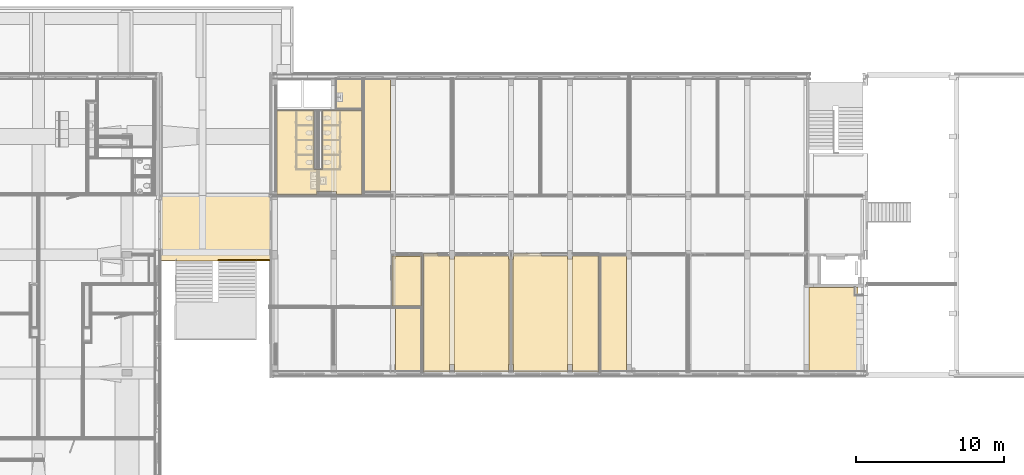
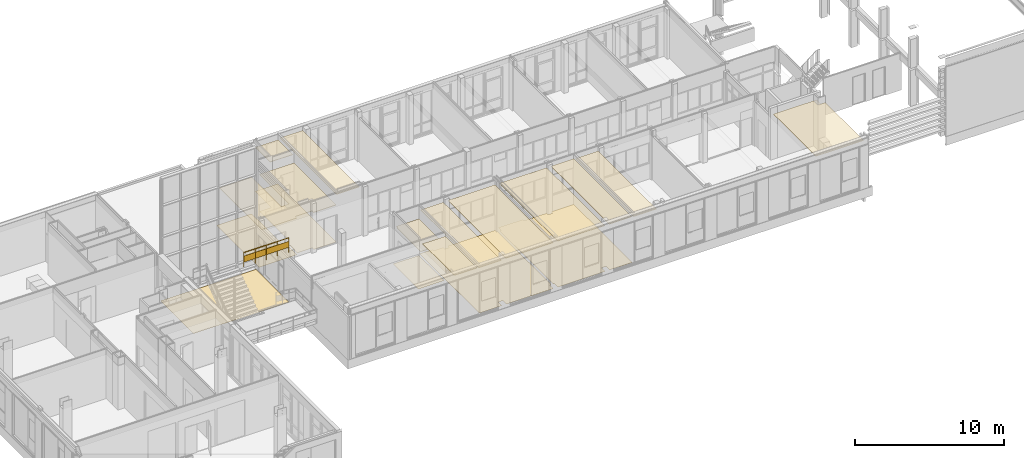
# One storey, part 82 of 94: 17 coverings, 1 railing.
"""IFC2X3 building model written with IfcOpenShell, lengths in millimetres."""

import ifcopenshell
import ifcopenshell.guid

model = None  # the IFC model being written
_history = None  # IfcOwnerHistory: only IFC2X3 demands one
_inside = {}  # id of a spatial element -> (the spatial element, [elements in it])
_under = {}  # id of a project, library or spatial element -> (it, [spatial elements below it])
_declared = {}  # id of a project -> (the project, [libraries it declares])
_typed = {}  # id of a type object -> (the type object, [elements of that type])
_made_of = {}  # id of a material, layer set ... -> (it, [elements and type objects made of it])


def new_model(schema):
    """Start an empty IFC model of exactly this schema.

    Asked for "IFC4X3", IfcOpenShell would pick the latest addendum, in which some entities
    have other attributes; the version numbers below select the first issue.
    IFC2X3 requires an IfcOwnerHistory on every rooted entity: one is made here for all.
    """
    global model, _history
    if schema == "IFC4X3":
        model = ifcopenshell.file(schema_version=(4, 3, 0, 0))
    else:
        model = ifcopenshell.file(schema=schema)
    _inside.clear()
    _under.clear()
    _declared.clear()
    _typed.clear()
    _made_of.clear()
    _history = None
    if model.schema == "IFC2X3":
        org = make("IfcOrganization", Name="unknown")
        user = make(
            "IfcPersonAndOrganization",
            ThePerson=make("IfcPerson", FamilyName="unknown"),
            TheOrganization=org,
        )
        app = make(
            "IfcApplication",
            ApplicationDeveloper=org,
            Version="unknown",
            ApplicationFullName="unknown",
            ApplicationIdentifier="unknown",
        )
        _history = make(
            "IfcOwnerHistory",
            OwningUser=user,
            OwningApplication=app,
            ChangeAction="ADDED",
            CreationDate=0,
        )
    return model


def make(cls, **values):
    """One entity of the class cls with the attributes given. An attribute that is None is left unset."""
    return model.create_entity(
        cls, **{name: value for name, value in values.items() if value is not None}
    )


def entity(cls, *values):
    """Any entity or typed value of the class cls, its attributes in the order of the schema. None: left unset."""
    e = model.create_entity(cls)
    for i, value in enumerate(values):
        if value is not None:
            e[i] = value
    return e


def rooted(cls, **values):
    """An entity with a GlobalId (a new one), such as an element, a storey or a relation."""
    return make(cls, GlobalId=ifcopenshell.guid.new(), OwnerHistory=_history, **values)


def si_unit(unit_type, name, prefix=None):
    """IfcSIUnit, for example si_unit("LENGTHUNIT", "METRE", prefix="MILLI")."""
    return make("IfcSIUnit", UnitType=unit_type, Prefix=prefix, Name=name)


def converted_unit(unit_type, name, factor, base, dimensions=None, offset=None):
    """IfcConversionBasedUnit, such as the inch: factor (a typed value) times the base unit."""
    return make(
        "IfcConversionBasedUnit"
        if offset is None
        else "IfcConversionBasedUnitWithOffset",
        ConversionOffset=offset,
        Dimensions=None
        if dimensions is None
        else entity("IfcDimensionalExponents", *dimensions),
        UnitType=unit_type,
        Name=name,
        ConversionFactor=make(
            "IfcMeasureWithUnit", ValueComponent=factor, UnitComponent=base
        ),
    )


def derived_unit(unit_type, elements):
    """IfcDerivedUnit: a product of units, each with its exponent."""
    return make(
        "IfcDerivedUnit",
        Elements=[
            make("IfcDerivedUnitElement", Unit=unit, Exponent=power)
            for unit, power in elements
        ],
        UnitType=unit_type,
    )


def money_unit(currency):
    """IfcMonetaryUnit."""
    return make("IfcMonetaryUnit", Currency=currency)


def assignment(units):
    """IfcUnitAssignment: the units of a project."""
    return None if units is None else make("IfcUnitAssignment", Units=units)


def point(xyz):
    """IfcCartesianPoint."""
    return None if xyz is None else make("IfcCartesianPoint", Coordinates=xyz)


def direction(xyz):
    """IfcDirection."""
    return None if xyz is None else make("IfcDirection", DirectionRatios=xyz)


def frame(location, z_axis=None, x_axis=None):
    """IfcAxis2Placement3D, a coordinate frame: its origin and axes. An axis left out is left unset."""
    return make(
        "IfcAxis2Placement3D",
        Location=point(location),
        Axis=direction(z_axis),
        RefDirection=direction(x_axis),
    )


def origin_with_axes():
    """The frame at (0, 0, 0) with the z axis (0, 0, 1) and the x axis (1, 0, 0) written out."""
    return frame((0.0, 0.0, 0.0), z_axis=(0.0, 0.0, 1.0), x_axis=(1.0, 0.0, 0.0))


def place(relative_to, where):
    """IfcLocalPlacement: puts the frame where relative to a parent placement (None: the world)."""
    return make(
        "IfcLocalPlacement", PlacementRelTo=relative_to, RelativePlacement=where
    )


def context(
    kind, dimensions, precision=None, world=None, true_north=None, identifier=None
):
    """IfcGeometricRepresentationContext, for example the 3D "Model" context."""
    return make(
        "IfcGeometricRepresentationContext",
        ContextIdentifier=identifier,
        ContextType=kind,
        CoordinateSpaceDimension=dimensions,
        Precision=precision,
        WorldCoordinateSystem=world,
        TrueNorth=true_north,
    )


def subcontext(parent, identifier, kind, view, scale=None):
    """IfcGeometricRepresentationSubContext, for example "Body" below "Model"."""
    return make(
        "IfcGeometricRepresentationSubContext",
        ContextIdentifier=identifier,
        ContextType=kind,
        ParentContext=parent,
        TargetScale=scale,
        TargetView=view,
    )


def project(units=None, contexts=None):
    """IfcProject with its units and contexts."""
    return rooted(
        "IfcProject",
        Name="project",
        RepresentationContexts=contexts,
        UnitsInContext=assignment(units),
    )


def spatial(cls, under=None, at=None, **own):
    """A site, building, storey or space (cls), placed at a placement, below another one or the project."""
    s = rooted(cls, ObjectPlacement=at, **own)
    if under is not None:
        _under.setdefault(under.id(), (under, []))[1].append(s)
    return s


def faces_of(points, faces, orient=None, outer=None):
    """IfcFace entities. A face is a list of loops; a loop is a list of indices into points, from 0.

    orient and outer hold one flag for each loop. By default every Orientation is true, the
    first loop of a face is its IfcFaceOuterBound and the others are IfcFaceBound.
    """
    made = []
    for i, loops in enumerate(faces):
        bounds = []
        for j, loop in enumerate(loops):
            is_outer = j == 0 if outer is None else outer[i][j]
            bounds.append(
                make(
                    "IfcFaceOuterBound" if is_outer else "IfcFaceBound",
                    Bound=make("IfcPolyLoop", Polygon=[points[k] for k in loop]),
                    Orientation=True if orient is None else orient[i][j],
                )
            )
        made.append(make("IfcFace", Bounds=bounds))
    return made


def faceted_brep(points, faces, orient=None, outer=None, voids=None):
    """IfcFacetedBrep: a solid bounded by flat faces; with voids (closed shells), ...WithVoids."""
    shared = [point(p) for p in points]
    hull = make("IfcClosedShell", CfsFaces=faces_of(shared, faces, orient, outer))
    if voids is None:
        return make("IfcFacetedBrep", Outer=hull)
    return make(
        "IfcFacetedBrepWithVoids",
        Outer=hull,
        Voids=[
            make(cls, CfsFaces=faces_of(shared, fs, o, b)) for cls, fs, o, b in voids
        ],
    )


def shape(context_of_items, identifier, shape_type, items):
    """IfcShapeRepresentation: the items that make up one representation, for example the "Body"."""
    return make(
        "IfcShapeRepresentation",
        ContextOfItems=context_of_items,
        RepresentationIdentifier=identifier,
        RepresentationType=shape_type,
        Items=items,
    )


def material(Name=None, Category=None):
    """IfcMaterial."""
    return make("IfcMaterial", Name=Name, Category=Category)


def material_list(materials):
    """IfcMaterialList."""
    return make("IfcMaterialList", Materials=materials)


def made_of(thing, what):
    """Note that an element or type object is made of a material, layer set ...; save() writes the relation."""
    if what is not None:
        _made_of.setdefault(what.id(), (what, []))[1].append(thing)
    return thing


def type_object(cls, material=None, **own):
    """A type object (cls), such as IfcWallType, which elements share."""
    return made_of(rooted(cls, **own), material)


def element(
    cls,
    number,
    at=None,
    inside=None,
    cuts=None,
    type_object=None,
    material=None,
    context=None,
    identifier="Body",
    shape_type=None,
    held_by="IfcProductDefinitionShape",
    body=None,
    shapes=None,
    **own,
):
    """One element of the class cls, such as IfcWall. Its Tag is "e" and its number.

    at: its placement. inside: the storey or other place that contains it. cuts: it is an
    opening in that element (IfcRelVoidsElement). A single representation is given by context,
    identifier, shape_type and body (its items); several are given by shapes. held_by: the class
    of the entity that holds the representations. save() writes the other relations.
    """
    e = rooted(cls, Tag="e%d" % number, ObjectPlacement=at, **own)
    if body is not None:
        shapes = [shape(context, identifier, shape_type, body)]
    if shapes is not None:
        e.Representation = make(held_by, Representations=shapes)
    if inside is not None:
        _inside.setdefault(inside.id(), (inside, []))[1].append(e)
    if cuts is not None:
        rooted(
            "IfcRelVoidsElement", RelatingBuildingElement=cuts, RelatedOpeningElement=e
        )
    if type_object is not None:
        _typed.setdefault(type_object.id(), (type_object, []))[1].append(e)
    return made_of(e, material)


def aggregate(whole, parts):
    """IfcRelAggregates: a whole, such as a stair, and the parts it consists of."""
    return rooted("IfcRelAggregates", RelatingObject=whole, RelatedObjects=parts)


def save(model, path):
    """Write the relations noted so far, then the file.

    IfcRelAggregates (storeys below a building ...), IfcRelContainedInSpatialStructure (elements
    in a storey), IfcRelDefinesByType, IfcRelAssociatesMaterial and IfcRelDeclares: one each for
    every whole, place, type object, material and project.
    """
    for whole, parts in _under.values():
        aggregate(whole, parts)
    for where, things in _inside.values():
        rooted(
            "IfcRelContainedInSpatialStructure",
            RelatedElements=things,
            RelatingStructure=where,
        )
    for kind, things in _typed.values():
        rooted("IfcRelDefinesByType", RelatedObjects=things, RelatingType=kind)
    for what, things in _made_of.values():
        rooted("IfcRelAssociatesMaterial", RelatedObjects=things, RelatingMaterial=what)
    for by, libraries in _declared.values():
        rooted("IfcRelDeclares", RelatingContext=by, RelatedDefinitions=libraries)
    model.write(path)


model = new_model("IFC2X3")

# Units and contexts
model_context = context("Model", 3, precision=0.01, world=origin_with_axes(), true_north=direction((0.0, 1.0)))
body_context = subcontext(model_context, "Body", "Model", "MODEL_VIEW")
ifc_project = project(units=[si_unit("LENGTHUNIT", "METRE", prefix="MILLI"), si_unit("AREAUNIT", "SQUARE_METRE"), si_unit("VOLUMEUNIT", "CUBIC_METRE"), converted_unit("PLANEANGLEUNIT", "DEGREE", entity("IfcPlaneAngleMeasure", 0.0174532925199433), si_unit("PLANEANGLEUNIT", "RADIAN"), dimensions=[0, 0, 0, 0, 0, 0, 0]), money_unit("EUR"), converted_unit("TIMEUNIT", "Year", entity("IfcTimeMeasure", 31557600.0), si_unit("TIMEUNIT", "SECOND"), dimensions=[0, 0, 1, 0, 0, 0, 0]), si_unit("MASSUNIT", "GRAM", prefix="KILO"), si_unit("THERMODYNAMICTEMPERATUREUNIT", "DEGREE_CELSIUS"), si_unit("LUMINOUSINTENSITYUNIT", "LUMEN"), si_unit("ENERGYUNIT", "JOULE", prefix="MEGA"), derived_unit("THERMALCONDUCTANCEUNIT", [(si_unit("POWERUNIT", "WATT"), 1), (si_unit("LENGTHUNIT", "METRE"), -1), (si_unit("THERMODYNAMICTEMPERATUREUNIT", "KELVIN"), -1)]), derived_unit("SPECIFICHEATCAPACITYUNIT", [(si_unit("ENERGYUNIT", "JOULE"), 1), (si_unit("MASSUNIT", "GRAM", prefix="KILO"), -1), (si_unit("THERMODYNAMICTEMPERATUREUNIT", "KELVIN"), -1)]), derived_unit("MASSDENSITYUNIT", [(si_unit("MASSUNIT", "GRAM", prefix="KILO"), 1), (si_unit("VOLUMEUNIT", "CUBIC_METRE"), -1)])], contexts=[model_context])

# Site, building, storey
site_placement = place(None, origin_with_axes())
site = spatial("IfcSite", under=ifc_project, at=site_placement, Name="<site naam>", CompositionType="ELEMENT")
building_placement = place(site_placement, origin_with_axes())
building = spatial("IfcBuilding", under=site, at=building_placement, Name="<Naam gebouw>", CompositionType="ELEMENT")
storey_placement = place(building_placement, frame((0.0, 0.0, 4250.0), z_axis=(0.0, 0.0, 1.0), x_axis=(1.0, 0.0, 0.0)))
storey = spatial("IfcBuildingStorey", under=building, at=storey_placement, Name="01 1e verdieping", CompositionType="ELEMENT", Elevation=4250.0)

# Coverings
ifc_material_1 = material(Name="Gietvloer type 02a")
covering_type_1 = type_object("IfcCoveringType", Name="VA-02a 3", PredefinedType="CEILING")
covering_1_placement = place(storey_placement, frame((14649.999959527, 17750.00000308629, 19.99999999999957), z_axis=(0.0, 0.0, 1.0), x_axis=(1.0, 0.0, 0.0)))
element("IfcCovering", 1, at=covering_1_placement, inside=storey, type_object=covering_type_1, material=ifc_material_1, Name="43_Vloer_VA-02a", PredefinedType="CEILING", context=body_context, shape_type="Brep", body=[
    faceted_brep([(0.0, 0.0, 3.000000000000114), (0.0, 0.0, 0.0), (-2715.000001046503, 0.0, 0.0), (-2715.000001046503, 0.0, 3.000000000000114), (0.0, -4000.143493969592, 3.000000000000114), (0.0, -4000.143493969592, 0.0), (225.0000404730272, -4000.143493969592, 0.0), (225.0000404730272, -5675.000003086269, 0.0), (-2715.000001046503, -5675.000003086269, 0.0), (-2715.000001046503, -5675.000003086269, 3.000000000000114), (225.0000404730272, -5675.000003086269, 3.000000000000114), (225.0000404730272, -4000.143493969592, 3.000000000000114)], [[[0, 1, 2, 3]], [[4, 5, 1, 0]], [[2, 1, 5, 6, 7, 8]], [[3, 2, 8, 9]], [[4, 0, 3, 9, 10, 11]], [[11, 6, 5, 4]], [[10, 7, 6, 11]], [[9, 8, 7, 10]]]),
])
covering_2_placement = place(storey_placement, frame((15250.00004285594, 13749.85647964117, 0.0), z_axis=(0.0, 0.0, 1.0), x_axis=(1.0, 0.0, 0.0)))
element("IfcCovering", 2, at=covering_2_placement, inside=storey, type_object=covering_type_1, material=ifc_material_1, Name="43_Vloer_VA-02a", PredefinedType="CEILING", context=body_context, shape_type="Brep", body=[
    faceted_brep([(0.0, 0.0, 3.000000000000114), (0.0, 0.0, 0.0), (-224.9999963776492, 0.0, 0.0), (-224.9999963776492, 0.0, 3.000000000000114), (0.0, 4000.143548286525, 3.000000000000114), (0.0, 4000.143548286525, 0.0), (924.9998929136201, 4000.143548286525, 0.0), (924.9998929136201, 6175.143434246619, 0.0), (2674.938291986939, 6175.143434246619, 0.0), (2674.938291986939, -1674.856531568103, 0.0), (925.0000114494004, -1674.856531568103, 0.0), (925.0000114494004, -1474.856442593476, 0.0), (-224.9999963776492, -1474.856442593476, 0.0), (-224.9999963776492, -1474.856442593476, 3.000000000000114), (925.0000114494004, -1474.856442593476, 3.000000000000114), (925.0000114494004, -1674.856531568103, 3.000000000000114), (2674.938291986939, -1674.856531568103, 3.000000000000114), (2674.938291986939, 6175.143434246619, 3.000000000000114), (924.9998929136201, 6175.143434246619, 3.000000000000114), (924.9998929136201, 4000.143548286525, 3.000000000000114)], [[[0, 1, 2, 3]], [[4, 5, 1, 0]], [[2, 1, 5, 6, 7, 8, 9, 10, 11, 12]], [[3, 2, 12, 13]], [[4, 0, 3, 13, 14, 15, 16, 17, 18, 19]], [[19, 6, 5, 4]], [[18, 7, 6, 19]], [[17, 8, 7, 18]], [[16, 9, 8, 17]], [[15, 10, 9, 16]], [[14, 11, 10, 15]], [[13, 12, 11, 14]]]),
])
ifc_material_2 = material(Name="systeemplafond 600*600 kleur wit")
covering_type_2 = type_object("IfcCoveringType", Name="PA-01a 40", PredefinedType="CEILING")
covering_3_placement = place(storey_placement, frame((18075.05830738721, 19889.39872897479, 3700.0), z_axis=(0.0, 0.0, 1.0), x_axis=(1.0, 0.0, 0.0)))
element("IfcCovering", 3, at=covering_3_placement, inside=storey, type_object=covering_type_2, material=ifc_material_2, Name="45_Vloer_PA-01a", PredefinedType="CEILING", context=body_context, shape_type="Brep", body=[
    faceted_brep([(0.0, 0.0, 40.00000000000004), (0.0, 0.0, 0.0), (0.0, -7608.999986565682, 0.0), (0.0, -7608.999986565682, 40.00000000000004), (1749.941647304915, 0.0, 40.00000000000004), (1749.941647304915, 0.0, 0.0), (1749.941533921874, -7608.999986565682, 0.0), (1749.941533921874, -7608.999986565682, 40.00000000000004)], [[[0, 1, 2, 3]], [[4, 5, 1, 0]], [[2, 1, 5, 6]], [[3, 2, 6, 7]], [[4, 0, 3, 7]], [[7, 6, 5, 4]]]),
])
covering_4_placement = place(storey_placement, frame((12149.99991724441, 12076.82023352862, 3000.0), z_axis=(0.0, 0.0, 1.0), x_axis=(1.0, 0.0, 0.0)))
element("IfcCovering", 4, at=covering_4_placement, inside=storey, type_object=covering_type_2, material=ifc_material_2, Name="45_Vloer_PA-01a", PredefinedType="CEILING", context=body_context, shape_type="Brep", body=[
    faceted_brep([(0.0, 0.0, 40.00000000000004), (0.0, 0.0, 0.0), (2725.000060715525, 0.0, 0.0), (2725.000060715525, 0.0, 40.00000000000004), (0.0, 5678.578504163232, 40.00000000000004), (0.0, 5678.578504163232, 0.0), (2500.000028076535, 5678.578504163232, 0.0), (2500.000028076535, 1678.577168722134, 0.0), (3100.000000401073, 1678.577168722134, 0.0), (3100.000000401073, 5678.578504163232, 0.0), (5773.677167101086, 5678.578504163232, 0.0), (5773.677167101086, 0.0, 0.0), (4025.000058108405, 0.0, 0.0), (4025.000058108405, 198.1797859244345, 0.0), (2725.000060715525, 198.1797859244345, 0.0), (2725.000060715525, 198.1797859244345, 40.00000000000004), (4025.000058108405, 198.1797859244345, 40.00000000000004), (4025.000058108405, 0.0, 40.00000000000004), (5773.677167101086, 0.0, 40.00000000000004), (5773.677167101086, 5678.578504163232, 40.00000000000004), (3100.000000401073, 5678.578504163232, 40.00000000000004), (3100.000000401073, 1678.577168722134, 40.00000000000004), (2500.000028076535, 1678.577168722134, 40.00000000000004), (2500.000028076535, 5678.578504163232, 40.00000000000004)], [[[0, 1, 2, 3]], [[4, 5, 1, 0]], [[2, 1, 5, 6, 7, 8, 9, 10, 11, 12, 13, 14]], [[3, 2, 14, 15]], [[4, 0, 3, 15, 16, 17, 18, 19, 20, 21, 22, 23]], [[23, 6, 5, 4]], [[22, 7, 6, 23]], [[21, 8, 7, 22]], [[20, 9, 8, 21]], [[19, 10, 9, 20]], [[18, 11, 10, 19]], [[17, 12, 11, 18]], [[16, 13, 12, 17]], [[15, 14, 13, 16]]]),
])
covering_5_placement = place(storey_placement, frame((23825.00006450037, 7926.689911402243, 3700.0), z_axis=(0.0, 0.0, 1.0), x_axis=(1.0, 0.0, 0.0)))
element("IfcCovering", 5, at=covering_5_placement, inside=storey, type_object=covering_type_2, material=ifc_material_2, Name="45_Vloer_PA-01a", PredefinedType="CEILING", context=body_context, shape_type="Brep", body=[
    faceted_brep([(-1749.988575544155, 0.0, 0.0), (0.0, 0.0, 0.0), (0.0, 0.0, -40.00000000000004), (-1749.988575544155, 0.0, -40.00000000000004), (-1749.988575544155, -7805.291182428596, 0.0), (0.0, -7805.291182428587, 0.0), (0.0, -7805.291182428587, -40.00000000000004), (-1749.988575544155, -7805.291182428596, -40.00000000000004)], [[[0, 1, 2, 3]], [[1, 0, 4, 5]], [[1, 5, 6, 2]], [[3, 2, 6, 7]], [[4, 0, 3, 7]], [[5, 4, 7, 6]]]),
])
covering_6_placement = place(storey_placement, frame((20175.00620360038, 550.0001138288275, 3700.0), z_axis=(0.0, 0.0, 1.0), x_axis=(1.0, 0.0, 0.0)))
element("IfcCovering", 6, at=covering_6_placement, inside=storey, type_object=covering_type_2, material=ifc_material_2, Name="45_Vloer_PA-01a", PredefinedType="CEILING", context=body_context, shape_type="Brep", body=[
    faceted_brep([(0.0, 3824.99985360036, 40.00000000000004), (0.0, -440.5001138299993, 40.00000000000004), (1750.000188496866, -440.5001138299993, 40.00000000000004), (1750.000188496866, 3824.99985360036, 40.00000000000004), (0.0, 3824.99985360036, 0.0), (0.0, -440.5001138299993, 0.0), (1750.000188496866, -440.5001138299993, 0.0), (1750.000188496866, 3824.99985360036, 0.0)], [[[0, 1, 2, 3]], [[4, 5, 1, 0]], [[5, 6, 2, 1]], [[3, 2, 6, 7]], [[0, 3, 7, 4]], [[7, 6, 5, 4]]]),
])
covering_7_placement = place(storey_placement, frame((34075.00016104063, 7926.689862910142, 3700.0), z_axis=(0.0, 0.0, 1.0), x_axis=(1.0, 0.0, 0.0)))
element("IfcCovering", 7, at=covering_7_placement, inside=storey, type_object=covering_type_2, material=ifc_material_2, Name="45_Vloer_PA-01a", PredefinedType="CEILING", context=body_context, shape_type="Brep", body=[
    faceted_brep([(0.0, -7805.291133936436, 0.0), (0.0, 0.0, 0.0), (0.0, 0.0, -40.00000000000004), (0.0, -7805.291133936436, -40.00000000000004), (1749.99971633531, 0.0, 0.0), (1749.99971633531, -7805.291133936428, 0.0), (1749.99971633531, 0.0, -40.00000000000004), (1749.99971633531, -7805.291133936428, -40.00000000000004)], [[[0, 1, 2, 3]], [[4, 1, 0, 5]], [[1, 4, 6, 2]], [[7, 3, 2, 6]], [[5, 0, 3, 7]], [[4, 5, 7, 6]]]),
])
covering_8_placement = place(storey_placement, frame((31824.99995019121, 7926.689911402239, 3700.0), z_axis=(0.0, 0.0, 1.0), x_axis=(1.0, 0.0, 0.0)))
element("IfcCovering", 8, at=covering_8_placement, inside=storey, type_object=covering_type_2, material=ifc_material_2, Name="45_Vloer_PA-01a", PredefinedType="CEILING", context=body_context, shape_type="Brep", body=[
    faceted_brep([(-3649.999943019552, 0.0, 40.00000000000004), (0.0, 0.0, 40.00000000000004), (0.0, 0.0, 0.0), (-3649.999943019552, 0.0, 0.0), (-3649.999943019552, -7805.291182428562, 40.00000000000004), (0.0, -7805.291182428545, 40.00000000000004), (0.0, -7805.291182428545, 0.0), (-3649.999943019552, -7805.291182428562, 0.0)], [[[0, 1, 2, 3]], [[1, 0, 4, 5]], [[1, 5, 6, 2]], [[3, 2, 6, 7]], [[4, 0, 3, 7]], [[5, 4, 7, 6]]]),
])
covering_9_placement = place(storey_placement, frame((48175.00001933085, 555.3987106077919, 3700.0), z_axis=(0.0, 0.0, 1.0), x_axis=(1.0, 0.0, 0.0)))
element("IfcCovering", 9, at=covering_9_placement, inside=storey, type_object=covering_type_2, material=ifc_material_2, Name="45_Vloer_PA-01a", PredefinedType="CEILING", context=body_context, shape_type="Brep", body=[
    faceted_brep([(3327.499980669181, 5235.601287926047, 0.0), (3327.499980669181, 5235.601287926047, -40.00000000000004), (0.0, 5235.601287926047, -40.00000000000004), (0.0, 5235.601287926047, 0.0), (3327.499980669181, 4678.500042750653, -40.00000000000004), (3327.499980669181, 4678.500042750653, 0.0), (0.0, -433.9999816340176, -40.00000000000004), (3689.999980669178, 4678.500042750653, -40.00000000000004), (3689.999980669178, -433.9999816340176, -40.00000000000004), (0.0, -433.9999816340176, 0.0), (3689.999980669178, -433.9999816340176, 0.0), (3689.999980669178, 4678.500042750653, 0.0)], [[[0, 1, 2, 3]], [[4, 1, 0, 5]], [[6, 2, 1, 4, 7, 8]], [[9, 3, 2, 6]], [[0, 3, 9, 10, 11, 5]], [[5, 11, 7, 4]], [[11, 10, 8, 7]], [[10, 9, 6, 8]]]),
])
covering_10_placement = place(storey_placement, frame((32174.99993803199, 7926.689911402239, 3700.0), z_axis=(0.0, 0.0, 1.0), x_axis=(1.0, 0.0, 0.0)))
element("IfcCovering", 10, at=covering_10_placement, inside=storey, type_object=covering_type_2, material=ifc_material_2, Name="45_Vloer_PA-01a", PredefinedType="CEILING", context=body_context, shape_type="Brep", body=[
    faceted_brep([(0.0001116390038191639, -7805.291182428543, 40.00000000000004), (0.0, 0.0, 40.00000000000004), (0.0, 0.0, 0.0), (0.0001116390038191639, -7805.291182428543, 0.0), (1750.000183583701, -7805.291182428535, 40.00000000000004), (1750.000183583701, 0.0, 40.00000000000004), (1750.000183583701, 0.0, 0.0), (1750.000183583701, -7805.291182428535, 0.0)], [[[0, 1, 2, 3]], [[4, 5, 1, 0]], [[1, 5, 6, 2]], [[2, 6, 7, 3]], [[4, 0, 3, 7]], [[5, 4, 7, 6]]]),
])
covering_11_placement = place(storey_placement, frame((20122.25653379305, 4525.000064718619, 3000.0), z_axis=(0.0, 0.0, 1.0), x_axis=(1.0, 0.0, 0.0)))
element("IfcCovering", 11, at=covering_11_placement, inside=storey, type_object=covering_type_2, material=ifc_material_2, Name="45_Vloer_PA-01a", PredefinedType="CEILING", context=body_context, shape_type="Brep", body=[
    faceted_brep([(1802.756227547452, 3365.00002647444, 0.0), (52.74346620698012, 3365.00002647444, 0.0), (52.74346620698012, 3365.00002647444, 40.00000000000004), (1802.756227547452, 3365.00002647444, 40.00000000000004), (0.0, 3199.999935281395, 0.0), (52.74346620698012, 3199.999935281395, 0.0), (1802.756227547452, 0.0, 0.0), (0.0, 0.0, 0.0), (52.74346620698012, 3199.999935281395, 40.00000000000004), (0.0, 3199.999935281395, 40.00000000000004), (0.0, 0.0, 40.00000000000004), (1802.756227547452, 0.0, 40.00000000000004)], [[[0, 1, 2, 3]], [[4, 5, 1, 0, 6, 7]], [[5, 8, 2, 1]], [[2, 8, 9, 10, 11, 3]], [[3, 11, 6, 0]], [[4, 9, 8, 5]], [[11, 10, 7, 6]], [[10, 9, 4, 7]]]),
])
covering_12_placement = place(storey_placement, frame((24175.00005234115, 7730.395628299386, 3700.0), z_axis=(0.0, 0.0, 1.0), x_axis=(1.0, 0.0, 0.0)))
element("IfcCovering", 12, at=covering_12_placement, inside=storey, type_object=covering_type_2, material=ifc_material_2, Name="45_Vloer_PA-01a", PredefinedType="CEILING", context=body_context, shape_type="Brep", body=[
    faceted_brep([(3649.999893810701, -7608.996899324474, 40.00000000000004), (0.0, -7608.996899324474, 40.00000000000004), (0.0, -7608.996899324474, 0.0), (3649.999893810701, -7608.996899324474, 0.0), (3649.999893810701, 196.2909730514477, 40.00000000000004), (0.0, 196.2909730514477, 40.00000000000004), (0.0, 196.2909730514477, 0.0), (3649.999893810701, 196.2909730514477, 0.0)], [[[0, 1, 2, 3]], [[4, 5, 1, 0]], [[1, 5, 6, 2]], [[2, 6, 7, 3]], [[4, 0, 3, 7]], [[5, 4, 7, 6]]]),
])
covering_13_placement = place(storey_placement, frame((17923.6770843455, 19889.39872897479, 3600.0), z_axis=(0.0, 0.0, 1.0), x_axis=(1.0, 0.0, 0.0)))
element("IfcCovering", 13, at=covering_13_placement, inside=storey, type_object=covering_type_2, material=ifc_material_2, Name="45_Vloer_PA-01a", PredefinedType="CEILING", context=body_context, shape_type="Brep", body=[
    faceted_brep([(0.0, 0.0, 40.00000000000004), (0.0, 0.0, 0.0), (-1748.677178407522, 0.0, 0.0), (-1748.677178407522, 0.0, 40.00000000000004), (0.0, -1983.999999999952, 40.00000000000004), (0.0, -1983.999999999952, 0.0), (-1748.677178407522, -1983.999999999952, 0.0), (-1748.677178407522, -1983.999999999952, 40.00000000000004)], [[[0, 1, 2, 3]], [[4, 5, 1, 0]], [[2, 1, 5, 6]], [[3, 2, 6, 7]], [[4, 0, 3, 7]], [[7, 6, 5, 4]]]),
])
ifc_material_3 = material(Name="tapijttegel")
covering_type_3 = type_object("IfcCoveringType", Name="VA-05 3", PredefinedType="CEILING")
covering_14_placement = place(storey_placement, frame((19925.00000000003, 4524.999967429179, 19.99999999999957), z_axis=(0.0, 0.0, 1.0), x_axis=(1.0, 0.0, 0.0)))
element("IfcCovering", 14, at=covering_14_placement, inside=storey, type_object=covering_type_3, material=ifc_material_3, Name="43_Vloer_VA-05", PredefinedType="CEILING", context=body_context, shape_type="Brep", body=[
    faceted_brep([(0.0, 0.0, 3.000000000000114), (0.0, 0.0, 0.0), (2000.006723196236, 0.0, 0.0), (2000.006723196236, 0.0, 3.000000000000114), (0.0, 3395.99765722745, 3.000000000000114), (0.0, 3395.99765722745, 0.0), (2000.006723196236, 3395.99765722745, 0.0), (2000.006723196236, 3395.99765722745, 3.000000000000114)], [[[0, 1, 2, 3]], [[4, 5, 1, 0]], [[2, 1, 5, 6]], [[3, 2, 6, 7]], [[4, 0, 3, 7]], [[7, 6, 5, 4]]]),
])

# Railing
ifc_material_4 = material(Name="staal balustrade")
ifc_material_5 = material(Name="hout AFW")
ifc_material_list = material_list([ifc_material_4, ifc_material_4, ifc_material_4, ifc_material_4, ifc_material_4, ifc_material_5, ifc_material_4, ifc_material_5, ifc_material_4, ifc_material_5, ifc_material_4, ifc_material_5])
railing_type = type_object("IfcRailingType", Name="Railing Type", PredefinedType="NOTDEFINED")
railing_placement = place(storey_placement, frame((9441.293343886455, 7680.000000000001, 4250.000000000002), z_axis=(0.0, 0.0, 1.0), x_axis=(1.0, 0.0, 0.0)))
element("IfcRailing", 15, at=railing_placement, inside=storey, type_object=railing_type, material=ifc_material_list, Name="34_Reling_", PredefinedType="NOTDEFINED", context=body_context, shape_type="Brep", body=[
    faceted_brep([(-1231.292743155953, -24.99999999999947, -199.9999999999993), (-1231.292743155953, -24.99999999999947, 980.0000000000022), (-1231.292743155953, -75.00000000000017, 980.0000000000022), (-1231.292743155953, -75.00000000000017, -199.9999999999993), (-1251.292743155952, -24.99999999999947, -199.9999999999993), (-1251.292743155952, -24.99999999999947, 980.0000000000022), (-1251.292743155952, -75.00000000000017, 980.0000000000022), (-1251.292743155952, -75.00000000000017, -199.9999999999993)], [[[0, 1, 2, 3]], [[4, 5, 1, 0]], [[1, 5, 6, 2]], [[3, 2, 6, 7]], [[0, 3, 7, 4]], [[7, 6, 5, 4]]]),
    faceted_brep([(-1241.292743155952, -24.99999999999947, 1000.0), (-1241.292743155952, -24.99999999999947, 970.0000000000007), (-1251.292743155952, -24.99999999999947, 970.0000000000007), (-1251.292743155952, -24.99999999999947, 1000.0), (-1241.292743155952, -75.00000000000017, 1000.0), (-1241.292743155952, -75.00000000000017, 970.0000000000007), (-1251.292743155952, -75.00000000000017, 970.0000000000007), (-1251.292743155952, -75.00000000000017, 1000.0)], [[[0, 1, 2, 3]], [[0, 4, 5, 1]], [[1, 5, 6, 2]], [[3, 2, 6, 7]], [[4, 0, 3, 7]], [[5, 4, 7, 6]]]),
    faceted_brep([(2233.706656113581, -24.99999999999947, -199.9999999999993), (2233.706656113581, -24.99999999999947, 980.0000000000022), (2233.706656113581, -75.00000000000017, 980.0000000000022), (2233.706656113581, -75.00000000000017, -199.9999999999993), (2213.706656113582, -24.99999999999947, -199.9999999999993), (2213.706656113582, -24.99999999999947, 980.0000000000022), (2213.706656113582, -75.00000000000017, 980.0000000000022), (2213.706656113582, -75.00000000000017, -199.9999999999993)], [[[0, 1, 2, 3]], [[4, 5, 1, 0]], [[1, 5, 6, 2]], [[3, 2, 6, 7]], [[0, 3, 7, 4]], [[7, 6, 5, 4]]]),
    faceted_brep([(2223.706656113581, -75.00000000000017, 1000.0), (2223.706656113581, -75.00000000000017, 970.0000000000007), (2233.706656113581, -75.00000000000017, 970.0000000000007), (2233.706656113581, -75.00000000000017, 1000.0), (2223.706656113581, -24.99999999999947, 1000.0), (2223.706656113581, -24.99999999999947, 970.0000000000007), (2233.706656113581, -24.99999999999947, 970.0000000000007), (2233.706656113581, -24.99999999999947, 1000.0)], [[[0, 1, 2, 3]], [[0, 4, 5, 1]], [[1, 5, 6, 2]], [[3, 2, 6, 7]], [[4, 0, 3, 7]], [[5, 4, 7, 6]]]),
    faceted_brep([(-1241.292743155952, -75.00000000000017, 1000.0), (-1241.292743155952, -75.00000000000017, 970.0000000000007), (2223.706656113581, -75.00000000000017, 970.0000000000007), (2223.706656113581, -75.00000000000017, 1000.0), (-1241.292743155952, -24.99999999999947, 1000.0), (-1241.292743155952, -24.99999999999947, 970.0000000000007), (2223.706656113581, -24.99999999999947, 970.0000000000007), (2223.706656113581, -24.99999999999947, 1000.0)], [[[0, 1, 2, 3]], [[0, 4, 5, 1]], [[1, 5, 6, 2]], [[3, 2, 6, 7]], [[4, 0, 3, 7]], [[5, 4, 7, 6]]]),
    faceted_brep([(-385.0428933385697, -59.99999999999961, 200.0000000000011), (-385.0428933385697, -59.99999999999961, 699.9999999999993), (-1231.292743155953, -59.99999999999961, 699.9999999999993), (-1231.292743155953, -59.99999999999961, 200.0000000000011), (-385.0428933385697, -40.00000000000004, 200.0000000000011), (-385.0428933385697, -40.00000000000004, 699.9999999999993), (-1231.292743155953, -40.00000000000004, 699.9999999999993), (-1231.292743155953, -40.00000000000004, 200.0000000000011)], [[[0, 1, 2, 3]], [[0, 4, 5, 1]], [[1, 5, 6, 2]], [[6, 7, 3, 2]], [[7, 4, 0, 3]], [[6, 5, 4, 7]]]),
    faceted_brep([(-370.0428933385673, -24.99999999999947, -199.9999999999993), (-370.0428933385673, -24.99999999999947, 1000.000000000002), (-370.0428933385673, -75.00000000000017, 1000.000000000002), (-370.0428933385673, -75.00000000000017, -199.9999999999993), (-380.0428933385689, -24.99999999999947, -199.9999999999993), (-380.0428933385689, -24.99999999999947, 1000.000000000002), (-380.0428933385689, -75.00000000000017, 1000.000000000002), (-380.0428933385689, -75.00000000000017, -199.9999999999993)], [[[0, 1, 2, 3]], [[4, 5, 1, 0]], [[1, 5, 6, 2]], [[3, 2, 6, 7]], [[0, 3, 7, 4]], [[7, 6, 5, 4]]]),
    faceted_brep([(481.2069564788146, -59.99999999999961, 200.0000000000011), (481.2069564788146, -59.99999999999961, 699.9999999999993), (-365.0428933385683, -59.99999999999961, 699.9999999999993), (-365.0428933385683, -59.99999999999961, 200.0000000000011), (481.2069564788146, -40.00000000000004, 200.0000000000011), (481.2069564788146, -40.00000000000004, 699.9999999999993), (-365.0428933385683, -40.00000000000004, 699.9999999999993), (-365.0428933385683, -40.00000000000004, 200.0000000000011)], [[[0, 1, 2, 3]], [[0, 4, 5, 1]], [[1, 5, 6, 2]], [[6, 7, 3, 2]], [[7, 4, 0, 3]], [[6, 5, 4, 7]]]),
    faceted_brep([(496.2069564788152, -24.99999999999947, -199.9999999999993), (496.2069564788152, -24.99999999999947, 1000.000000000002), (496.2069564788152, -75.00000000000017, 1000.000000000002), (496.2069564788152, -75.00000000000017, -199.9999999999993), (486.2069564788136, -24.99999999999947, -199.9999999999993), (486.2069564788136, -24.99999999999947, 1000.000000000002), (486.2069564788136, -75.00000000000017, 1000.000000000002), (486.2069564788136, -75.00000000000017, -199.9999999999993)], [[[0, 1, 2, 3]], [[4, 5, 1, 0]], [[1, 5, 6, 2]], [[3, 2, 6, 7]], [[0, 3, 7, 4]], [[7, 6, 5, 4]]]),
    faceted_brep([(1347.456806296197, -59.99999999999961, 200.0000000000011), (1347.456806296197, -59.99999999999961, 699.9999999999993), (501.2069564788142, -59.99999999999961, 699.9999999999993), (501.2069564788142, -59.99999999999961, 200.0000000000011), (1347.456806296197, -40.00000000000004, 200.0000000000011), (1347.456806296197, -40.00000000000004, 699.9999999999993), (501.2069564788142, -40.00000000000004, 699.9999999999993), (501.2069564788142, -40.00000000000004, 200.0000000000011)], [[[0, 1, 2, 3]], [[0, 4, 5, 1]], [[1, 5, 6, 2]], [[6, 7, 3, 2]], [[7, 4, 0, 3]], [[6, 5, 4, 7]]]),
    faceted_brep([(1362.456806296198, -24.99999999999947, -199.9999999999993), (1362.456806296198, -24.99999999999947, 1000.000000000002), (1362.456806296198, -75.00000000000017, 1000.000000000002), (1362.456806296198, -75.00000000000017, -199.9999999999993), (1352.456806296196, -24.99999999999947, -199.9999999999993), (1352.456806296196, -24.99999999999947, 1000.000000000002), (1352.456806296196, -75.00000000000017, 1000.000000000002), (1352.456806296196, -75.00000000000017, -199.9999999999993)], [[[0, 1, 2, 3]], [[4, 5, 1, 0]], [[1, 5, 6, 2]], [[3, 2, 6, 7]], [[0, 3, 7, 4]], [[7, 6, 5, 4]]]),
    faceted_brep([(2213.706656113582, -59.99999999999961, 200.0000000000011), (2213.706656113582, -59.99999999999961, 699.9999999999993), (1367.456806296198, -59.99999999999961, 699.9999999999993), (1367.456806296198, -59.99999999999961, 200.0000000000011), (2213.706656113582, -40.00000000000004, 200.0000000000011), (2213.706656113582, -40.00000000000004, 699.9999999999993), (1367.456806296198, -40.00000000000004, 699.9999999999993), (1367.456806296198, -40.00000000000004, 200.0000000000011)], [[[0, 1, 2, 3]], [[0, 4, 5, 1]], [[1, 5, 6, 2]], [[6, 7, 3, 2]], [[7, 4, 0, 3]], [[6, 5, 4, 7]]]),
])

# Coverings
ifc_material_6 = material(Name="Behoud natuursteen tegels")
covering_type_4 = type_object("IfcCoveringType", Name="VA-06 3", PredefinedType="CEILING")
covering_15_placement = place(storey_placement, frame((8049.999996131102, 11999.9999640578, 0.0), z_axis=(0.0, 0.0, 1.0), x_axis=(1.0, 0.0, 0.0)))
element("IfcCovering", 16, at=covering_15_placement, inside=storey, type_object=covering_type_4, material=ifc_material_6, Name="43_Vloer_VA-06", PredefinedType="CEILING", context=body_context, shape_type="Brep", body=[
    faceted_brep([(-3779.955527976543, 0.0, 3.000000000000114), (-3779.955527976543, -61.02121164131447, 3.000000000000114), (-3737.999839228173, -61.02121164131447, 3.000000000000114), (-3737.999839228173, 0.0, 3.000000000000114), (-3779.955527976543, 0.0, 0.0), (-3779.955527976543, -61.02121164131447, 0.0), (-3737.999839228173, -61.02121164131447, 0.0), (-3737.999839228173, 0.0, 0.0)], [[[0, 1, 2, 3]], [[4, 5, 1, 0]], [[6, 2, 1, 5]], [[6, 7, 3, 2]], [[0, 3, 7, 4]], [[7, 6, 5, 4]]]),
    faceted_brep([(3615.000217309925, 0.0, 0.0), (-3729.999839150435, 0.0, 0.0), (-3729.999839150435, 0.0, 3.000000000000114), (3615.000217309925, 0.0, 3.000000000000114), (-3779.955527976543, -69.02121171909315, 0.0), (-3729.999839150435, -69.02121171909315, 0.0), (3614.99999692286, -4428.465073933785, 0.0), (-3779.955527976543, -4428.465073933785, 0.0), (-3729.999839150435, -69.02121171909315, 3.000000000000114), (-3779.955527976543, -69.02121171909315, 3.000000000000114), (-3779.955527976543, -4428.465073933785, 3.000000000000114), (3614.99999692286, -4428.465073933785, 3.000000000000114)], [[[0, 1, 2, 3]], [[4, 5, 1, 0, 6, 7]], [[5, 8, 2, 1]], [[2, 8, 9, 10, 11, 3]], [[3, 11, 6, 0]], [[4, 9, 8, 5]], [[11, 10, 7, 6]], [[10, 9, 4, 7]]]),
])
ifc_material_7 = material(Name="Vinyl type 01a")
covering_type_5 = type_object("IfcCoveringType", Name="VA-01a 3", PredefinedType="CEILING")
covering_16_placement = place(storey_placement, frame((22075.01149171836, 7921.02079944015, 0.0), z_axis=(0.0, 0.0, 1.0), x_axis=(1.0, 0.0, 0.0)))
element("IfcCovering", 17, at=covering_16_placement, inside=storey, type_object=covering_type_5, material=ifc_material_7, Name="43_Vloer_VA-01a", PredefinedType="CEILING", context=body_context, shape_type="Brep", body=[
    faceted_brep([(-0.0112540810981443, -7846.037690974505, 3.000000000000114), (-0.0112540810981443, -7846.037690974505, 0.0), (1749.988524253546, -7846.037690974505, 0.0), (1749.988524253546, -7846.037690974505, 3.000000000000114), (0.0, 163.9792005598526, 3.000000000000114), (0.0, 163.9792005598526, 0.0), (990.4169822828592, 163.9792005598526, 0.0), (990.4169822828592, 0.1530639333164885, 0.0), (1749.988524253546, 0.2704533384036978, 0.0), (1750.018851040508, -196.0747610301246, 0.0), (2100.018877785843, -196.0207414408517, 0.0), (2099.988550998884, 0.3244729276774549, 0.0), (5749.988542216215, 0.8885985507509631, 0.0), (5749.988542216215, -196.0207414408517, 0.0), (5849.988516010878, -196.0207414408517, 0.0), (5849.988516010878, -7371.020815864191, 0.0), (5749.988542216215, -7371.020815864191, 0.0), (5749.988542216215, -7846.037690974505, 0.0), (2099.988550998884, -7846.037690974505, 0.0), (2099.988550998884, -7371.020815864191, 0.0), (1749.988524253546, -7371.020815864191, 0.0), (1749.988524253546, -7371.020815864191, 3.000000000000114), (2099.988550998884, -7371.020815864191, 3.000000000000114), (2099.988550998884, -7846.037690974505, 3.000000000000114), (5749.988542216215, -7846.037690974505, 3.000000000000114), (5749.988542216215, -7371.020815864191, 3.000000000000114), (5849.988516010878, -7371.020815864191, 3.000000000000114), (5849.988516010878, -196.0207414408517, 3.000000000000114), (5749.988542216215, -196.0207414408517, 3.000000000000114), (5749.988542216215, 0.8885985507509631, 3.000000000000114), (2099.988550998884, 0.3244729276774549, 3.000000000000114), (2100.018877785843, -196.0207414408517, 3.000000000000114), (1750.018851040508, -196.0747610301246, 3.000000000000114), (1749.988524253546, 0.2704533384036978, 3.000000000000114), (990.4169822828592, 0.1530639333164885, 3.000000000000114), (990.4169822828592, 163.9792005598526, 3.000000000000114)], [[[0, 1, 2, 3]], [[4, 5, 1, 0]], [[1, 5, 6, 7, 8, 9, 10, 11, 12, 13, 14, 15, 16, 17, 18, 19, 20, 2]], [[3, 2, 20, 21]], [[4, 0, 3, 21, 22, 23, 24, 25, 26, 27, 28, 29, 30, 31, 32, 33, 34, 35]], [[35, 6, 5, 4]], [[34, 7, 6, 35]], [[33, 8, 7, 34]], [[32, 9, 8, 33]], [[31, 10, 9, 32]], [[30, 11, 10, 31]], [[29, 12, 11, 30]], [[28, 13, 12, 29]], [[27, 14, 13, 28]], [[26, 15, 14, 27]], [[25, 16, 15, 26]], [[24, 17, 16, 25]], [[23, 18, 17, 24]], [[22, 19, 18, 23]], [[21, 20, 19, 22]]]),
])
covering_17_placement = place(storey_placement, frame((28174.99996238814, 7724.999910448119, 1.999999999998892), z_axis=(0.0, 0.0, 1.0), x_axis=(1.0, 0.0, 0.0)))
element("IfcCovering", 18, at=covering_17_placement, inside=storey, type_object=covering_type_5, material=ifc_material_7, Name="43_Vloer_VA-01a", PredefinedType="CEILING", context=body_context, shape_type="Brep", body=[
    faceted_brep([(0.0, 0.0, 3.000000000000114), (0.0, 0.0, 0.0), (-99.99996238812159, 0.0, 0.0), (-99.99996238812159, 0.0, 3.000000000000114), (0.0, 360.0000895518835, 3.000000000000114), (0.0, 360.0000895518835, 0.0), (1906.000037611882, 360.0000895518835, 0.0), (1906.000037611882, 197.2581466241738, 0.0), (3649.999931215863, 197.5275656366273, 0.0), (3650.03051710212, -0.05394022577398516, 0.0), (4000.0305040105, 0.0, 0.0), (4000.000036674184, 197.581624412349, 0.0), (5750.000089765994, 197.8520368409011, 0.0), (5750.000089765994, -7650.016801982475, 0.0), (4000.000036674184, -7650.016801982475, 0.0), (4000.000036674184, -7174.999850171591, 0.0), (3649.999931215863, -7174.999850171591, 0.0), (3649.999931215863, -7650.016801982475, 0.0), (0.0, -7650.016801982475, 0.0), (0.0, -7174.999850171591, 0.0), (-99.99996238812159, -7174.999850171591, 0.0), (-99.99996238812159, -7174.999850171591, 3.000000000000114), (0.0, -7174.999850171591, 3.000000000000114), (0.0, -7650.016801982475, 3.000000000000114), (3649.999931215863, -7650.016801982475, 3.000000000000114), (3649.999931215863, -7174.999850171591, 3.000000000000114), (4000.000036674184, -7174.999850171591, 3.000000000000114), (4000.000036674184, -7650.016801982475, 3.000000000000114), (5750.000089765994, -7650.016801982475, 3.000000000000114), (5750.000089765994, 197.8520368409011, 3.000000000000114), (4000.000036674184, 197.581624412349, 3.000000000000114), (4000.0305040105, 0.0, 3.000000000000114), (3650.03051710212, -0.05394022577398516, 3.000000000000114), (3649.999931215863, 197.5275656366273, 3.000000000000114), (1906.000037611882, 197.2581466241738, 3.000000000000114), (1906.000037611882, 360.0000895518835, 3.000000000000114)], [[[0, 1, 2, 3]], [[4, 5, 1, 0]], [[2, 1, 5, 6, 7, 8, 9, 10, 11, 12, 13, 14, 15, 16, 17, 18, 19, 20]], [[3, 2, 20, 21]], [[0, 3, 21, 22, 23, 24, 25, 26, 27, 28, 29, 30, 31, 32, 33, 34, 35, 4]], [[35, 6, 5, 4]], [[34, 7, 6, 35]], [[33, 8, 7, 34]], [[32, 9, 8, 33]], [[31, 10, 9, 32]], [[30, 11, 10, 31]], [[29, 12, 11, 30]], [[28, 13, 12, 29]], [[27, 14, 13, 28]], [[26, 15, 14, 27]], [[25, 16, 15, 26]], [[24, 17, 16, 25]], [[23, 18, 17, 24]], [[22, 19, 18, 23]], [[21, 20, 19, 22]]]),
])

save(model, "model.ifc")
